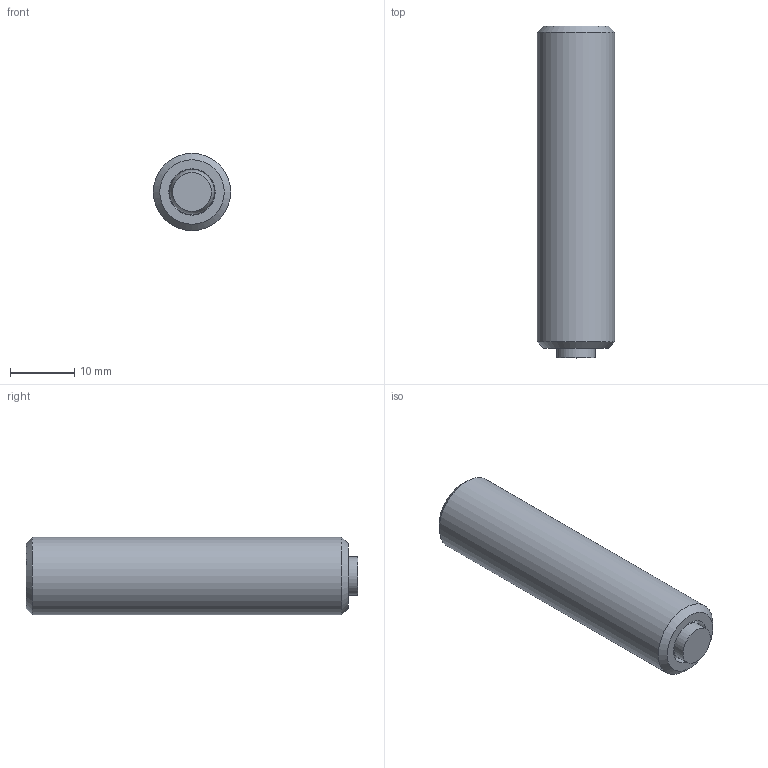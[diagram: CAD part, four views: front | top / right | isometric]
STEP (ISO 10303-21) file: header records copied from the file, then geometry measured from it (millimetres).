
FILE_DESCRIPTION( ( 'STEP AP203' ), '1' );
FILE_NAME( 'C:/Temp/Ganter_Step_05_03_2020/data/3_2/gn_709_8/gn_709_8b/Clamping pad GN 709.8-M12-50-B (0).stp', '2020-03-13T05:38:00', ( 'License CC BY-ND 4.0' ), ( 'CADENAS' ), ' ', 'PARTsolutions', ' ' );
FILE_SCHEMA( ( 'CONFIG_CONTROL_DESIGN' ) );
Length unit declared in the file: millimetre
Products named in the file (3): Clamping pad GN 709.8-M12-50-B (0); _Pendelelement GN 709.8-M12-50-B-1; _Pendelelement GN 709.8-M12-50-B-2
Assembly tree (2 placements, depth 2):
  Clamping pad GN 709.8-M12-50-B (0)
    _Pendelelement GN 709.8-M12-50-B-1
    _Pendelelement GN 709.8-M12-50-B-2
Bounding box: 12 x 51.5 x 12 mm (x, y, z)
Volume: 5415.2 mm3; surface area: 2487.3 mm2
Topology: 2 solids, 2 shells, 18 faces, 36 edges, 23 vertices
Faces by surface type: plane 11, cone 3, cylinder 3, sphere 1
Full cylindrical faces by diameter (mm): 6 x1, 7.18 x1, 12 x1
Entity records: 524 total; most frequent: DIRECTION 78, CARTESIAN_POINT 70, ORIENTED_EDGE 54, AXIS2_PLACEMENT_3D 30, EDGE_CURVE 27, EDGE_LOOP 26, VERTEX_POINT 22, FACE_OUTER_BOUND 21
